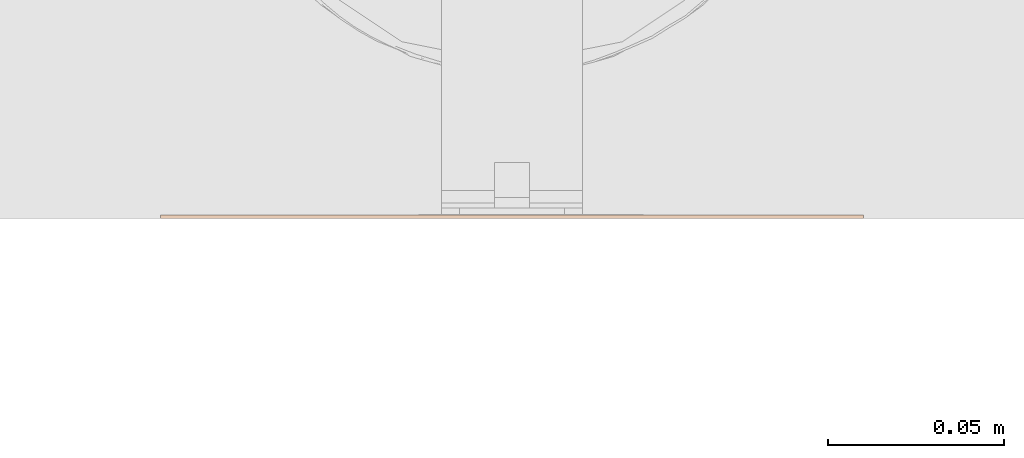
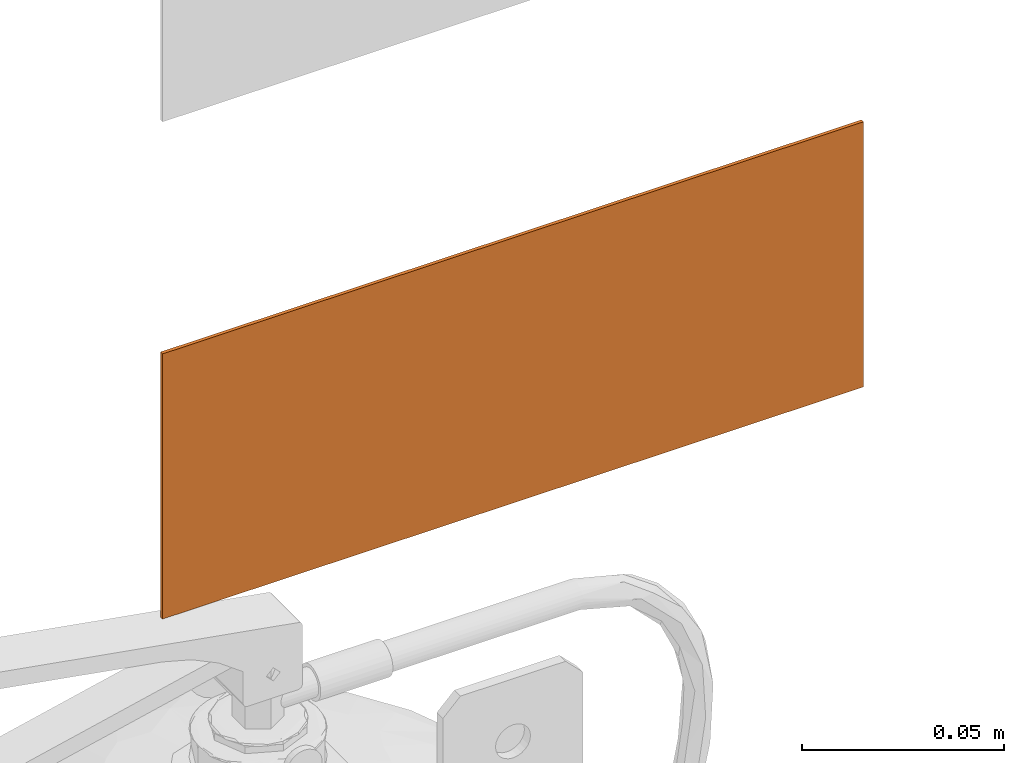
# One storey, part 76 of 119: 1 proxy.
"""IFC2X3 building model written with IfcOpenShell, lengths in metres."""

from ifc_helpers import new_model, entity, si_unit, converted_unit, derived_unit, direction, frame, frame_2d, origin, origin_2d_with_axis, place, context, subcontext, project, spatial, polyline, circle_curve, parameter, trimmed, segment, composite_curve, rectangle, outline, extrude, source, transform, mapped, material, material_list, type_object, type_shapes, element, save


model = new_model("IFC2X3")

# Units and contexts
model_context = context("Model", 3, precision=1e-05, world=origin(), true_north=direction((6.12303176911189e-17, 1.0)))
body_context = subcontext(model_context, "Body", "Model", "MODEL_VIEW")
ifc_project = project(units=[si_unit("LENGTHUNIT", "METRE"), si_unit("AREAUNIT", "SQUARE_METRE"), si_unit("VOLUMEUNIT", "CUBIC_METRE"), converted_unit("PLANEANGLEUNIT", "DEGREE", entity("IfcRatioMeasure", 0.0174532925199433), si_unit("PLANEANGLEUNIT", "RADIAN"), dimensions=[0, 0, 0, 0, 0, 0, 0]), si_unit("MASSUNIT", "GRAM", prefix="KILO"), derived_unit("MASSDENSITYUNIT", [(si_unit("MASSUNIT", "GRAM", prefix="KILO"), 1), (si_unit("LENGTHUNIT", "METRE"), -3)]), derived_unit("MOMENTOFINERTIAUNIT", [(si_unit("LENGTHUNIT", "METRE"), 4)]), si_unit("TIMEUNIT", "SECOND"), si_unit("FREQUENCYUNIT", "HERTZ"), si_unit("THERMODYNAMICTEMPERATUREUNIT", "DEGREE_CELSIUS"), derived_unit("THERMALTRANSMITTANCEUNIT", [(si_unit("MASSUNIT", "GRAM", prefix="KILO"), 1), (si_unit("THERMODYNAMICTEMPERATUREUNIT", "KELVIN"), -1), (si_unit("TIMEUNIT", "SECOND"), -3)]), derived_unit("VOLUMETRICFLOWRATEUNIT", [(si_unit("LENGTHUNIT", "METRE"), 3), (si_unit("TIMEUNIT", "SECOND"), -1)]), si_unit("ELECTRICCURRENTUNIT", "AMPERE"), si_unit("ELECTRICVOLTAGEUNIT", "VOLT"), si_unit("POWERUNIT", "WATT"), si_unit("FORCEUNIT", "NEWTON", prefix="KILO"), si_unit("ILLUMINANCEUNIT", "LUX"), si_unit("LUMINOUSFLUXUNIT", "LUMEN"), si_unit("LUMINOUSINTENSITYUNIT", "CANDELA"), derived_unit("USERDEFINED", [(si_unit("MASSUNIT", "GRAM", prefix="KILO"), -1), (si_unit("LENGTHUNIT", "METRE"), -2), (si_unit("TIMEUNIT", "SECOND"), 3), (si_unit("LUMINOUSFLUXUNIT", "LUMEN"), 1)]), derived_unit("LINEARVELOCITYUNIT", [(si_unit("LENGTHUNIT", "METRE"), 1), (si_unit("TIMEUNIT", "SECOND"), -1)]), si_unit("PRESSUREUNIT", "PASCAL"), derived_unit("USERDEFINED", [(si_unit("LENGTHUNIT", "METRE"), -2), (si_unit("MASSUNIT", "GRAM", prefix="KILO"), 1), (si_unit("TIMEUNIT", "SECOND"), -2)]), derived_unit("LINEARFORCEUNIT", [(si_unit("MASSUNIT", "GRAM", prefix="KILO"), 1), (si_unit("LENGTHUNIT", "METRE"), 1), (si_unit("TIMEUNIT", "SECOND"), -2), (si_unit("LENGTHUNIT", "METRE"), -1)]), derived_unit("PLANARFORCEUNIT", [(si_unit("MASSUNIT", "GRAM", prefix="KILO"), 1), (si_unit("LENGTHUNIT", "METRE"), 1), (si_unit("TIMEUNIT", "SECOND"), -2), (si_unit("LENGTHUNIT", "METRE"), -2)])], contexts=[model_context])

# Site, building, storey
site_placement = place(None, origin())
site = spatial("IfcSite", under=ifc_project, at=site_placement, Name="Default", CompositionType="ELEMENT")
building_placement = place(site_placement, origin())
building = spatial("IfcBuilding", under=site, at=building_placement, CompositionType="ELEMENT")
storey_placement = place(building_placement, origin())
storey = spatial("IfcBuildingStorey", under=building, at=storey_placement, Name="PAV. 01 - TÉRREO", CompositionType="ELEMENT", Elevation=0.0)

# Proxy
ifc_material_1 = material(Name="Plastico Preto")
ifc_material_2 = material(Name="Plastico azul claro")
ifc_material_3 = material(Name="Plastico vermelho")
ifc_material_4 = material(Name="Plastico branco")
ifc_material_5 = material(Name="Plastico Verde")
ifc_material_list = material_list([ifc_material_1, ifc_material_2, ifc_material_3, ifc_material_4, ifc_material_5])
building_element_proxy_type = type_object("IfcBuildingElementProxyType", Name="Sinalização de equipamentos - E05 - Extintor de incêndio - TIPO 2:Placa de extintor - E6-A", PredefinedType="NOTDEFINED", material=ifc_material_1)
shared_shape = source(origin(), body_context, "Body", "SweptSolid", [
    extrude(rectangle(XDim=0.001, YDim=0.0243464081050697, at=origin_2d_with_axis()), frame((0.0791678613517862, -0.0005, 0.0143679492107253), z_axis=(0.0, 0.0, 1.0), x_axis=(0.0, 1.0, 0.0)), (0.0, 0.0, 1.0), 0.0243153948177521),
    extrude(rectangle(XDim=0.001, YDim=0.0243464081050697, at=origin_2d_with_axis()), frame((0.0514092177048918, -0.0005, 0.0143679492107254), z_axis=(0.0, 0.0, 1.0), x_axis=(0.0, 1.0, 0.0)), (0.0, 0.0, 1.0), 0.0243153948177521),
    extrude(rectangle(XDim=0.001, YDim=0.0243464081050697, at=origin_2d_with_axis()), frame((0.023605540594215, -0.0005, 0.0143679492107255), z_axis=(0.0, 0.0, 1.0), x_axis=(0.0, 1.0, 0.0)), (0.0, 0.0, 1.0), 0.0243153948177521),
    extrude(rectangle(XDim=0.001, YDim=0.0243464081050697, at=origin_2d_with_axis()), frame((-0.00415310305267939, -0.0005, 0.0143679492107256), z_axis=(0.0, 0.0, 1.0), x_axis=(0.0, 1.0, 0.0)), (0.0, 0.0, 1.0), 0.0243153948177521),
    extrude(outline(polyline([(-0.0399999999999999, -0.1), (0.0399999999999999, -0.1), (0.0399999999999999, 0.1), (-0.0399999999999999, 0.1), (-0.0399999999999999, -0.1)]), holes=[polyline([(-0.0319999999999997, 0.091), (-0.0150022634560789, 0.091), (-0.0150022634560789, -0.091), (-0.0319999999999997, -0.091), (-0.0319999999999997, 0.091)]), polyline([(-0.010791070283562, 0.091), (0.0319999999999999, 0.091), (0.0319999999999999, 0.0473282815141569), (-0.010791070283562, 0.0473282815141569), (-0.010791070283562, 0.091)]), polyline([(0.00131665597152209, 0.0441091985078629), (0.0256320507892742, 0.0441091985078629), (0.0256320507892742, 0.0197627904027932), (0.00131665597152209, 0.0197627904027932), (0.00131665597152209, 0.0441091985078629)]), polyline([(0.00131665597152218, 0.0163263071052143), (0.0256320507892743, 0.0163263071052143), (0.0256320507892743, -0.00802010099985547), (0.00131665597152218, -0.00802010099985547), (0.00131665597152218, 0.0163263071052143)]), polyline([(0.00131665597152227, -0.0114323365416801), (0.0256320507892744, -0.0114323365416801), (0.0256320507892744, -0.0357787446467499), (0.00131665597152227, -0.0357787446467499), (0.00131665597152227, -0.0114323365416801)]), polyline([(0.00131665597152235, -0.0635824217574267), (0.00131665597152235, -0.039236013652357), (0.0256320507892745, -0.039236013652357), (0.0256320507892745, -0.0635824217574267), (0.00131665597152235, -0.0635824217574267)]), polyline([(0.00131665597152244, -0.0669946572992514), (0.0256320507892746, -0.0669946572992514), (0.0256320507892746, -0.091), (0.00131665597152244, -0.091), (0.00131665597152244, -0.0669946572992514)])]), frame((0.0, -0.001, 0.0399999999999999), z_axis=(0.0, 1.0, 0.0), x_axis=(0.0, 0.0, -1.0)), (0.0, 0.0, 1.0), 0.001),
    extrude(outline(composite_curve([segment(trimmed(circle_curve(frame_2d((-0.00182713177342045, 0.0030692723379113), x_axis=(1.0, 0.0)), 0.00333179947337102), [parameter(180.0)], [parameter(270.0)], True, "PARAMETER"), True, "CONTINUOUS"), segment(polyline([(-0.00182713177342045, -0.000262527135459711), (-0.000430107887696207, -0.000262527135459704)]), True, "CONTINUOUS"), segment(polyline([(-0.000430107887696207, -0.000262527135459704), (-0.000430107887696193, -0.00350797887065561)]), True, "CONTINUOUS"), segment(polyline([(-0.000430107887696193, -0.00350797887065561), (-0.00249820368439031, -0.00350797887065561)]), True, "CONTINUOUS"), segment(polyline([(-0.00249820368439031, -0.00350797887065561), (-0.00742535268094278, 7.18044171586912e-05)]), True, "CONTINUOUS"), segment(polyline([(-0.00742535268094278, 7.18044171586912e-05), (-0.00742535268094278, 0.00166630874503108)]), True, "CONTINUOUS"), segment(polyline([(-0.00742535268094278, 0.00166630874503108), (-0.00871124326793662, 0.00166630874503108)]), True, "CONTINUOUS"), segment(polyline([(-0.00871124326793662, 0.00166630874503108), (-0.00846384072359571, -0.00134355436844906)]), True, "CONTINUOUS"), segment(trimmed(circle_curve(frame_2d((-0.00608099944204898, -0.00114769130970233), x_axis=(1.0, 0.0)), 0.00239087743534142), [parameter(184.698993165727)], [parameter(232.0)], True, "PARAMETER"), True, "CONTINUOUS"), segment(polyline([(-0.00755297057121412, -0.00303172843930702), (-0.0030496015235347, -0.00655014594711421)]), True, "CONTINUOUS"), segment(polyline([(-0.0030496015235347, -0.00655014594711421), (-0.000124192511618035, -0.00655014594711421)]), True, "CONTINUOUS"), segment(polyline([(-0.000124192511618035, -0.00655014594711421), (-0.000124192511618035, -0.00788602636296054)]), True, "CONTINUOUS"), segment(polyline([(-0.000124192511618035, -0.00788602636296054), (0.003207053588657, -0.00788602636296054)]), True, "CONTINUOUS"), segment(polyline([(0.003207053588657, -0.00788602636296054), (0.003207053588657, -0.00698801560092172)]), True, "CONTINUOUS"), segment(polyline([(0.003207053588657, -0.00698801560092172), (0.00540783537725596, -0.00698801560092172)]), True, "CONTINUOUS"), segment(polyline([(0.00540783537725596, -0.00698801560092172), (0.00665542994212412, -0.00574042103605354)]), True, "CONTINUOUS"), segment(polyline([(0.00665542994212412, -0.00574042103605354), (0.00665542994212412, -0.00450724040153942)]), True, "CONTINUOUS"), segment(polyline([(0.00665542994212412, -0.00450724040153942), (0.00491919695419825, -0.00324579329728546)]), True, "CONTINUOUS"), segment(polyline([(0.00491919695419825, -0.00324579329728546), (0.00355615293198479, -0.00324579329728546)]), True, "CONTINUOUS"), segment(polyline([(0.00355615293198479, -0.00324579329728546), (0.00355615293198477, -0.000262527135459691)]), True, "CONTINUOUS"), segment(polyline([(0.00355615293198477, -0.000262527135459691), (0.00500257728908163, -0.000262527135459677)]), True, "CONTINUOUS"), segment(trimmed(circle_curve(frame_2d((0.00500257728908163, 0.00284153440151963), x_axis=(1.0, 0.0)), 0.00310406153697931), [parameter(270.0)], [parameter(1.52666624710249e-13)], True, "PARAMETER"), True, "CONTINUOUS"), segment(polyline([(0.00810663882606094, 0.00284153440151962), (0.0081066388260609, 0.0313568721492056)]), True, "CONTINUOUS"), segment(polyline([(0.0081066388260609, 0.0313568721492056), (-0.00515893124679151, 0.0313568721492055)]), True, "CONTINUOUS"), segment(polyline([(-0.00515893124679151, 0.0313568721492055), (-0.00515893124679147, 0.00306927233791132)]), True, "CONTINUOUS")], self_intersect=False)), frame((-0.0705753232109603, -0.001, 0.0413479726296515), z_axis=(0.0, 1.0, 0.0), x_axis=(1.0, 0.0, 0.0)), (0.0, 0.0, 1.0), 0.001),
    extrude(rectangle(XDim=0.001, YDim=0.0243464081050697, at=origin_2d_with_axis()), frame((-0.0319359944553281, -0.0005, 0.0143679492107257), z_axis=(0.0, 0.0, 1.0), x_axis=(0.0, 1.0, 0.0)), (0.0, 0.0, 1.0), 0.0243153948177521),
    extrude(outline(polyline([(-0.0218358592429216, -0.021395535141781), (0.0218358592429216, -0.021395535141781), (0.0218358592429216, 0.021395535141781), (-0.0218358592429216, 0.021395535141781), (-0.0218358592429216, -0.021395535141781)]), holes=[composite_curve([segment(polyline([(-0.00669545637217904, -0.0194044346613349), (-0.00669545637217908, 0.00911090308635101)]), True, "CONTINUOUS"), segment(trimmed(circle_curve(frame_2d((-0.00359139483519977, 0.00911090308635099), x_axis=(-1.0, 0.0)), 0.00310406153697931), [parameter(270.0)], [parameter(360.0)], True, "PARAMETER"), False, "CONTINUOUS"), segment(polyline([(-0.0035913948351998, 0.0122149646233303), (-0.00214497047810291, 0.0122149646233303)]), True, "CONTINUOUS"), segment(polyline([(-0.00214497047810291, 0.0122149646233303), (-0.00214497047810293, 0.0151982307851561)]), True, "CONTINUOUS"), segment(polyline([(-0.00214497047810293, 0.0151982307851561), (-0.0035080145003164, 0.0151982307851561)]), True, "CONTINUOUS"), segment(polyline([(-0.0035080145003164, 0.0151982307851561), (-0.00524424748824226, 0.01645967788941)]), True, "CONTINUOUS"), segment(polyline([(-0.00524424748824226, 0.01645967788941), (-0.00524424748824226, 0.0176928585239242)]), True, "CONTINUOUS"), segment(polyline([(-0.00524424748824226, 0.0176928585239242), (-0.0039966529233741, 0.0189404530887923)]), True, "CONTINUOUS"), segment(polyline([(-0.0039966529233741, 0.0189404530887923), (-0.00179587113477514, 0.0189404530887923)]), True, "CONTINUOUS"), segment(polyline([(-0.00179587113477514, 0.0189404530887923), (-0.00179587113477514, 0.0198384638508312)]), True, "CONTINUOUS"), segment(polyline([(-0.00179587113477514, 0.0198384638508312), (0.00153537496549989, 0.0198384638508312)]), True, "CONTINUOUS"), segment(polyline([(0.00153537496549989, 0.0198384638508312), (0.00153537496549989, 0.0185025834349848)]), True, "CONTINUOUS"), segment(polyline([(0.00153537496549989, 0.0185025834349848), (0.00446078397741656, 0.0185025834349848)]), True, "CONTINUOUS"), segment(polyline([(0.00446078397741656, 0.0185025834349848), (0.00896415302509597, 0.0149841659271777)]), True, "CONTINUOUS"), segment(trimmed(circle_curve(frame_2d((0.00749218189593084, 0.0131001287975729), x_axis=(-1.0, 0.0)), 0.00239087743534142), [parameter(184.698993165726)], [parameter(231.999999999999)], True, "PARAMETER"), False, "CONTINUOUS"), segment(polyline([(0.00987502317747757, 0.0132959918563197), (0.0101224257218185, 0.0102861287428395)]), True, "CONTINUOUS"), segment(polyline([(0.0101224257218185, 0.0102861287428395), (0.00883653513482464, 0.0102861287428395)]), True, "CONTINUOUS"), segment(polyline([(0.00883653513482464, 0.0102861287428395), (0.00883653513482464, 0.0118806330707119)]), True, "CONTINUOUS"), segment(polyline([(0.00883653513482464, 0.0118806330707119), (0.00390938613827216, 0.0154604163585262)]), True, "CONTINUOUS"), segment(polyline([(0.00390938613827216, 0.0154604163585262), (0.00184129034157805, 0.0154604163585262)]), True, "CONTINUOUS"), segment(polyline([(0.00184129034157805, 0.0154604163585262), (0.00184129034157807, 0.0122149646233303)]), True, "CONTINUOUS"), segment(polyline([(0.00184129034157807, 0.0122149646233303), (0.00323831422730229, 0.0122149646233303)]), True, "CONTINUOUS"), segment(trimmed(circle_curve(frame_2d((0.00323831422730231, 0.00888316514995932), x_axis=(-1.0, 0.0)), 0.00333179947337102), [parameter(180.0)], [parameter(270.0)], True, "PARAMETER"), False, "CONTINUOUS"), segment(polyline([(0.00657011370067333, 0.00888316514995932), (0.00657011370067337, -0.0194044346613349)]), True, "CONTINUOUS"), segment(polyline([(0.00657011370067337, -0.0194044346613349), (-0.00669545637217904, -0.0194044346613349)]), True, "CONTINUOUS")], self_intersect=False)]), frame((-0.0691641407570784, -0.001, 0.0293955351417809), z_axis=(0.0, 1.0, 0.0), x_axis=(-1.0, 0.0, 0.0)), (0.0, 0.0, 1.0), 0.001),
    extrude(rectangle(XDim=0.001, YDim=0.182, at=origin_2d_with_axis()), frame((0.0, -0.0005, 0.0550022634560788), z_axis=(0.0, 0.0, 1.0), x_axis=(0.0, 1.0, 0.0)), (0.0, 0.0, 1.0), 0.0169977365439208),
])
type_shapes(building_element_proxy_type, [shared_shape])
proxy_placement = place(storey_placement, frame((32.2240605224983, 32.2871958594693, 1.65), z_axis=(0.0, 0.0, 1.0), x_axis=(-1.0, 0.0, 0.0)))
element("IfcBuildingElementProxy", 1, at=proxy_placement, inside=storey, type_object=building_element_proxy_type, material=ifc_material_list, Name="Sinalização de equipamentos - E05 - Extintor de incêndio - TIPO 2:Placa de extintor - E6-A", ObjectType="Sinalização de equipamentos - E05 - Extintor de incêndio - TIPO 2:Placa de extintor - E6-A", context=body_context, shape_type="MappedRepresentation", body=[
    mapped(shared_shape, transform((0.0, 0.0, 0.0), scale=1.0)),
])

save(model, "model.ifc")
